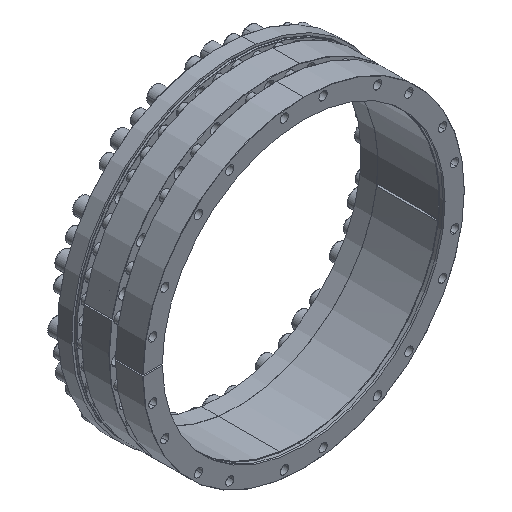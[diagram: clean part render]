
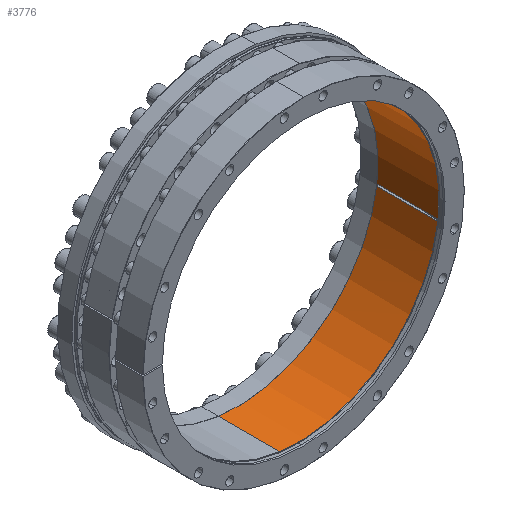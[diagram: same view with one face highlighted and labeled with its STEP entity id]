
A CAD part, isometric view. The second image highlights one B-rep face of the part: STEP entity #3776.
In plain terms, the highlighted cylindrical face has radius 300 mm (diameter 600 mm), a partial arc.
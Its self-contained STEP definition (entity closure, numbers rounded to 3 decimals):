
#1395 = CARTESIAN_POINT ( 'NONE',  ( 0., 11.504, 0. ) ) ;
#1814 = FACE_OUTER_BOUND ( 'NONE', #60049, .T. ) ;
#2590 = DIRECTION ( 'NONE',  ( 0., -1., 0. ) ) ;
#3776 = ADVANCED_FACE ( 'NONE', ( #1814 ), #33012, .F. ) ;
#3946 = VERTEX_POINT ( 'NONE', #24267 ) ;
#3985 = DIRECTION ( 'NONE',  ( -0.131, 0., -0.991 ) ) ;
#4066 = AXIS2_PLACEMENT_3D ( 'NONE', #13099, #40922, #3985 ) ;
#4843 = CIRCLE ( 'NONE', #54722, 300. ) ;
#5029 = CARTESIAN_POINT ( 'NONE',  ( 297.2, 141.504, -40.892 ) ) ;
#5035 = VECTOR ( 'NONE', #47017, 1000. ) ;
#6046 = DIRECTION ( 'NONE',  ( 0.131, 0., 0.991 ) ) ;
#7391 = CIRCLE ( 'NONE', #50106, 300. ) ;
#8206 = ORIENTED_EDGE ( 'NONE', *, *, #12964, .T. ) ;
#9578 = CARTESIAN_POINT ( 'NONE',  ( 297.657, 141.504, -37.422 ) ) ;
#11957 = VERTEX_POINT ( 'NONE', #32347 ) ;
#12063 = ORIENTED_EDGE ( 'NONE', *, *, #17748, .T. ) ;
#12533 = VERTEX_POINT ( 'NONE', #33699 ) ;
#12964 = EDGE_CURVE ( 'NONE', #32548, #12533, #34250, .T. ) ;
#13099 = CARTESIAN_POINT ( 'NONE',  ( 0., 11.004, 0. ) ) ;
#15345 = DIRECTION ( 'NONE',  ( 0., -1., 0. ) ) ;
#15441 = VERTEX_POINT ( 'NONE', #32887 ) ;
#17001 = VECTOR ( 'NONE', #53238, 1000. ) ;
#17670 = VERTEX_POINT ( 'NONE', #5029 ) ;
#17748 = EDGE_CURVE ( 'NONE', #15441, #17670, #54413, .T. ) ;
#20260 = EDGE_CURVE ( 'NONE', #32548, #41977, #7391, .T. ) ;
#21008 = CARTESIAN_POINT ( 'NONE',  ( 39.158, 11.004, 297.433 ) ) ;
#21994 = CIRCLE ( 'NONE', #54701, 300. ) ;
#22808 = CARTESIAN_POINT ( 'NONE',  ( 0., 11.504, 0. ) ) ;
#23880 = CARTESIAN_POINT ( 'NONE',  ( 297.2, 11.004, -40.892 ) ) ;
#24267 = CARTESIAN_POINT ( 'NONE',  ( 39.158, 11.504, 297.433 ) ) ;
#24401 = CARTESIAN_POINT ( 'NONE',  ( 0., 141.504, 0. ) ) ;
#27402 = DIRECTION ( 'NONE',  ( 0., -1., 0. ) ) ;
#27536 = DIRECTION ( 'NONE',  ( 0.131, 0., 0.991 ) ) ;
#29114 = DIRECTION ( 'NONE',  ( 0.131, 0., 0.991 ) ) ;
#30947 = EDGE_CURVE ( 'NONE', #41977, #3946, #58673, .T. ) ;
#32347 = CARTESIAN_POINT ( 'NONE',  ( 297.657, 11.504, -37.422 ) ) ;
#32548 = VERTEX_POINT ( 'NONE', #52605 ) ;
#32887 = CARTESIAN_POINT ( 'NONE',  ( 297.2, 11.504, -40.892 ) ) ;
#33012 = CYLINDRICAL_SURFACE ( 'NONE', #4066, 300. ) ;
#33699 = CARTESIAN_POINT ( 'NONE',  ( -39.158, 11.504, -297.433 ) ) ;
#33849 = DIRECTION ( 'NONE',  ( 0., -1., 0. ) ) ;
#34235 = EDGE_CURVE ( 'NONE', #17670, #45321, #38427, .T. ) ;
#34250 = LINE ( 'NONE', #50916, #46573 ) ;
#34604 = ORIENTED_EDGE ( 'NONE', *, *, #20260, .F. ) ;
#38427 = CIRCLE ( 'NONE', #59108, 300. ) ;
#40922 = DIRECTION ( 'NONE',  ( 0., -1., 0. ) ) ;
#41977 = VERTEX_POINT ( 'NONE', #49531 ) ;
#42080 = ORIENTED_EDGE ( 'NONE', *, *, #47486, .T. ) ;
#42341 = EDGE_CURVE ( 'NONE', #11957, #3946, #4843, .T. ) ;
#43170 = CARTESIAN_POINT ( 'NONE',  ( 0., 142.004, 0. ) ) ;
#43673 = CARTESIAN_POINT ( 'NONE',  ( 297.657, 11.004, -37.422 ) ) ;
#44051 = ORIENTED_EDGE ( 'NONE', *, *, #34235, .T. ) ;
#45321 = VERTEX_POINT ( 'NONE', #9578 ) ;
#46301 = VECTOR ( 'NONE', #2590, 1000. ) ;
#46573 = VECTOR ( 'NONE', #27402, 1000. ) ;
#47017 = DIRECTION ( 'NONE',  ( 0., 1., 0. ) ) ;
#47486 = EDGE_CURVE ( 'NONE', #12533, #15441, #21994, .T. ) ;
#47827 = DIRECTION ( 'NONE',  ( -0.131, 0., -0.991 ) ) ;
#49531 = CARTESIAN_POINT ( 'NONE',  ( 39.158, 142.004, 297.433 ) ) ;
#50106 = AXIS2_PLACEMENT_3D ( 'NONE', #43170, #15345, #47827 ) ;
#50916 = CARTESIAN_POINT ( 'NONE',  ( -39.158, 11.004, -297.433 ) ) ;
#52605 = CARTESIAN_POINT ( 'NONE',  ( -39.158, 142.004, -297.433 ) ) ;
#52704 = ORIENTED_EDGE ( 'NONE', *, *, #30947, .F. ) ;
#53005 = EDGE_CURVE ( 'NONE', #45321, #11957, #54070, .T. ) ;
#53238 = DIRECTION ( 'NONE',  ( 0., -1., 0. ) ) ;
#54070 = LINE ( 'NONE', #43673, #17001 ) ;
#54413 = LINE ( 'NONE', #23880, #5035 ) ;
#54701 = AXIS2_PLACEMENT_3D ( 'NONE', #22808, #55312, #27536 ) ;
#54722 = AXIS2_PLACEMENT_3D ( 'NONE', #1395, #33849, #6046 ) ;
#54777 = ORIENTED_EDGE ( 'NONE', *, *, #53005, .T. ) ;
#55312 = DIRECTION ( 'NONE',  ( 0., -1., 0. ) ) ;
#56839 = DIRECTION ( 'NONE',  ( 0., -1., 0. ) ) ;
#58673 = LINE ( 'NONE', #21008, #46301 ) ;
#59108 = AXIS2_PLACEMENT_3D ( 'NONE', #24401, #56839, #29114 ) ;
#59982 = ORIENTED_EDGE ( 'NONE', *, *, #42341, .T. ) ;
#60049 = EDGE_LOOP ( 'NONE', ( #52704, #34604, #8206, #42080, #12063, #44051, #54777, #59982 ) ) ;
